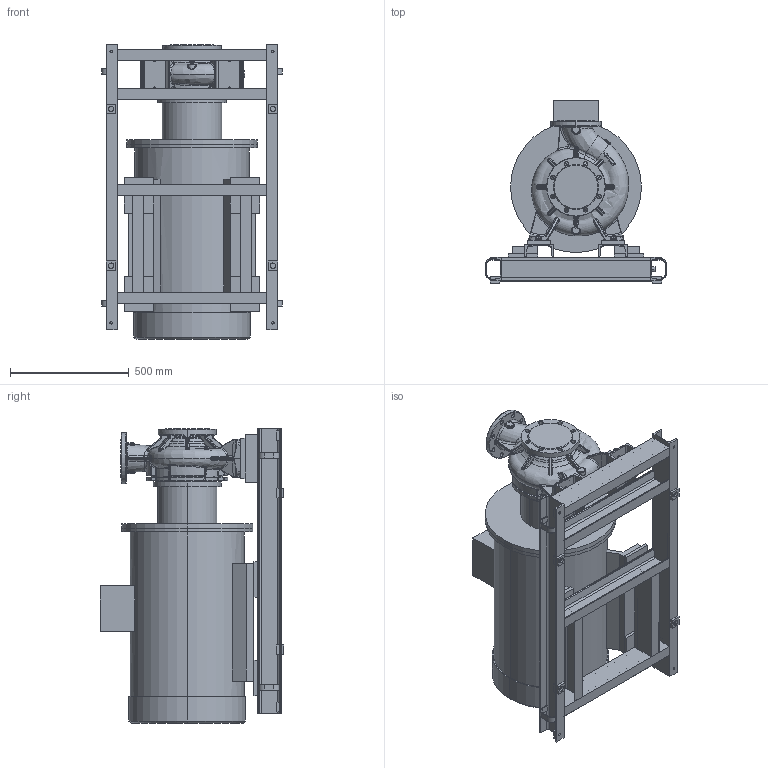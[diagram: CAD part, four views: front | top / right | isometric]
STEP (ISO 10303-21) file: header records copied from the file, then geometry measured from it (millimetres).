
FILE_DESCRIPTION (( 'STEP AP203' ), '1' );
FILE_NAME ('KRM 125-100-250-2-90.STEP', '2026-08-18T05:48:27', ( '' ), ( '' ), 'SwSTEP 2.0', 'SolidWorks 2016', '' );
FILE_SCHEMA (( 'CONFIG_CONTROL_DESIGN' ));
Products named in the file (1): KRM 125-100-250-2-90
Bounding box: 761.08 x 770 x 1239.8 mm (x, y, z)
Volume: 203104307.6 mm3; surface area: 6510691.9 mm2
Topology: 37 solids, 37 shells, 1565 faces, 3831 edges, 2330 vertices
Faces by surface type: bspline 493, plane 438, cylinder 395, torus 123, cone 85, sphere 31
Entity records: 97136 total; most frequent: CARTESIAN_POINT 63864, ORIENTED_EDGE 7596, DIRECTION 6055, EDGE_CURVE 3798, AXIS2_PLACEMENT_3D 2384, VERTEX_POINT 2330, EDGE_LOOP 1686, ADVANCED_FACE 1565
